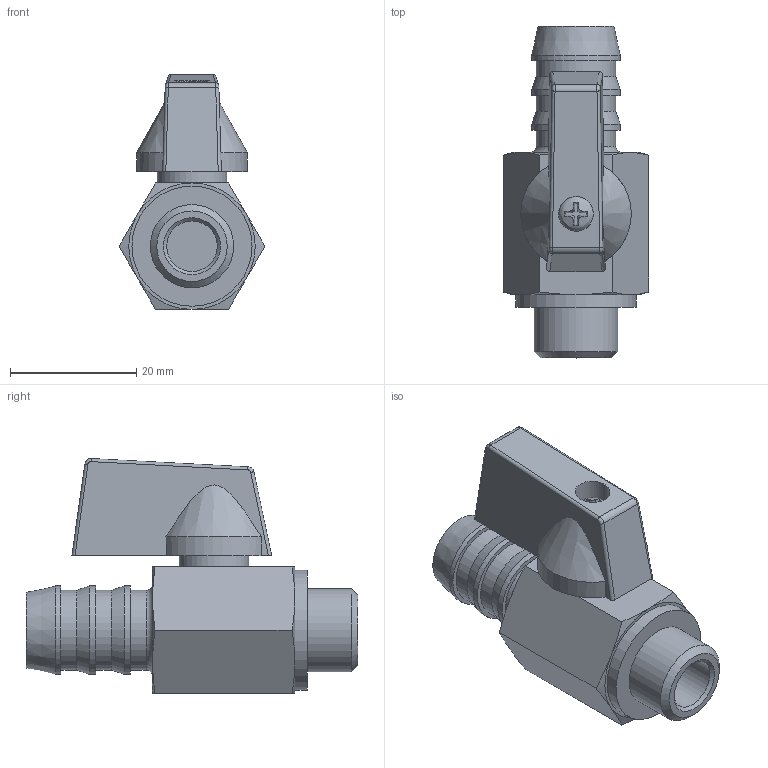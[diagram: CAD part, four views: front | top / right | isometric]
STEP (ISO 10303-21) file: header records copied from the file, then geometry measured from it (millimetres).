
FILE_DESCRIPTION(('STEP AP203'), '1');
FILE_NAME('VT.435.N.02', '', ('UNSPECIFIED'), ('UNSPECIFIED'), 'C3D Converter', 'C3D Toolkit', '');
FILE_SCHEMA(('CONFIG_CONTROL_DESIGN'));
Length unit declared in the file: millimetre
Products named in the file (1): ВР.491811.005.000 СБ
Bounding box: 23.09 x 52.5 x 37.15 mm (x, y, z)
Volume: 14302.5 mm3; surface area: 6497.7 mm2
Topology: 1 solids, 1 shells, 103 faces, 229 edges, 142 vertices
Faces by surface type: plane 46, cylinder 30, cone 20, bspline 5, torus 2
Full cylindrical faces by diameter (mm): 4 x1, 4.5 x1, 5.5 x1, 8 x2, 9.2 x1, 11 x1, 12.6 x3, 13.157 x1, 13.4 x1, 14 x3, 19 x1
Entity records: 4017 total; most frequent: CARTESIAN_POINT 1903, ORIENTED_EDGE 410, DIRECTION 406, EDGE_CURVE 205, AXIS2_PLACEMENT_3D 166, VERTEX_POINT 142, EDGE_LOOP 141, ADVANCED_FACE 103
